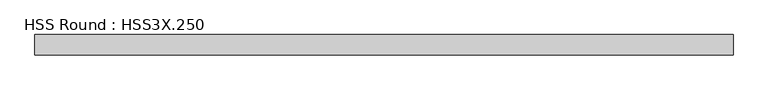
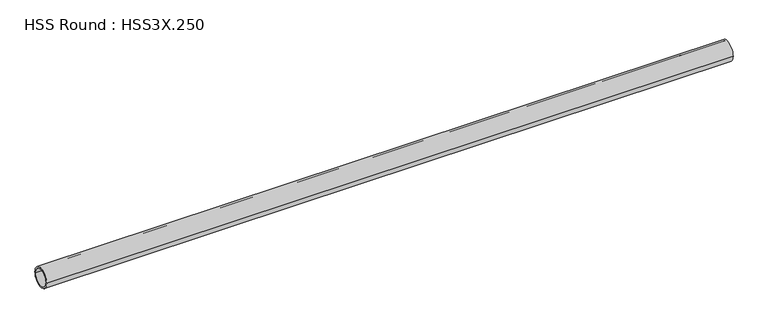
"""IFC4 building model written with IfcOpenShell, lengths in millimetres: member geometry, HSS Round : HSS3X.250."""

from ifc_helpers import new_model, si_unit, point, frame, origin, origin_2d, place, context, project, spatial, circle_curve, trimmed, segment, composite_curve, outline, extrude, source, transform, mapped, element, save


def hss_round_hss3x_250_7c8beab8(model_context):
    return source(origin(), model_context, "Body", "SweptSolid", [
        extrude(outline(composite_curve([segment(trimmed(circle_curve(origin_2d(), 38.1), [point((-38.1, 0.0))], [point((38.1, 0.0))], False, "CARTESIAN"), True, "CONTINUOUS"), segment(trimmed(circle_curve(origin_2d(), 38.1), [point((38.1, 0.0))], [point((-38.1, 0.0))], False, "CARTESIAN"), True, "CONTINUOUS")], self_intersect=False), holes=[composite_curve([segment(trimmed(circle_curve(origin_2d(), 31.75), [point((31.75, 0.0))], [point((-31.75, 0.0))], True, "CARTESIAN"), True, "CONTINUOUS"), segment(trimmed(circle_curve(origin_2d(), 31.75), [point((-31.75, 0.0))], [point((31.75, 0.0))], True, "CARTESIAN"), True, "CONTINUOUS")], self_intersect=False)]), frame((-1265.3677552, 0.0, 0.0), z_axis=(1.0, 0.0, 0.0), x_axis=(0.0, 1.0, 0.0)), (0.0, 0.0, 1.0), 2588.746489),
    ])


if __name__ == "__main__":
    model = new_model("IFC4")
    model_context = context("Model", 3, world=origin())
    ifc_project = project(units=[si_unit("LENGTHUNIT", "METRE", prefix="MILLI")], contexts=[model_context])
    site = spatial("IfcSite", under=ifc_project)
    building = spatial("IfcBuilding", under=site)
    placement = place(None, origin())
    hss_round_hss3x_250_shape = hss_round_hss3x_250_7c8beab8(model_context)
    element("IfcMember", 1, ObjectType="HSS Round : HSS3X.250", at=placement, inside=building, context=model_context, shape_type="MappedRepresentation", body=[
        mapped(hss_round_hss3x_250_shape, transform((0.0, 0.0, 0.0), x_axis=(1.0, 0.0, 0.0), y_axis=(0.0, 1.0, 0.0), z_axis=(0.0, 0.0, 1.0))),
    ])
    save(model, "model.ifc")
